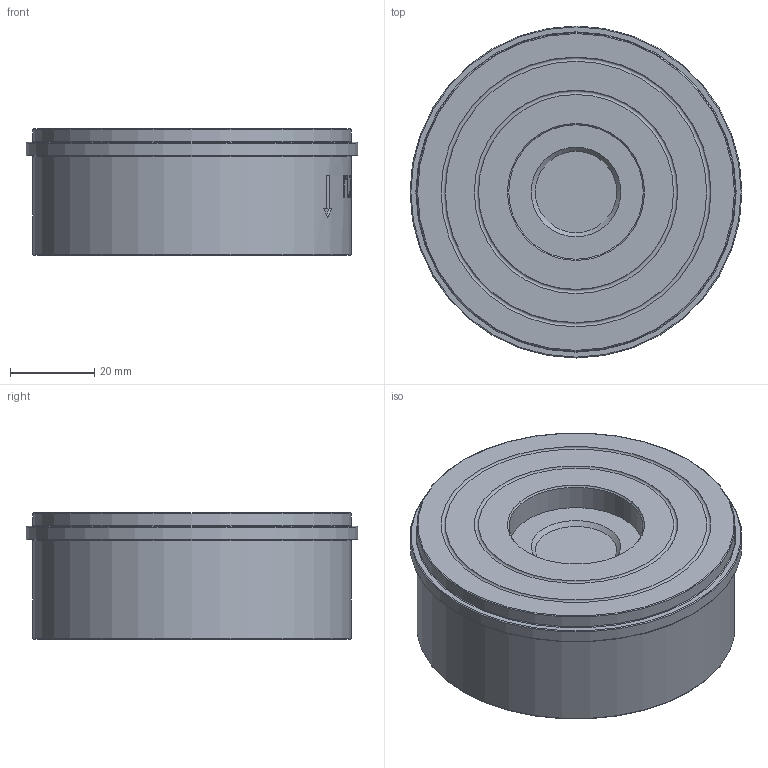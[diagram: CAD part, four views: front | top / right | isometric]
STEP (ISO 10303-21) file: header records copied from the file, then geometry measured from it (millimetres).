
FILE_DESCRIPTION(('STEP AP214'), '1');
FILE_NAME('VCS3232-Fb 孰囡囗 钺疣蝽 DN.ru 捏32 畜40', '', ('UNSPECIFIED'), ('UNSPECIFIED'), 'C3D Converter', 'C3D Toolkit', '');
FILE_SCHEMA(('AUTOMOTIVE_DESIGN { 1 0 10303 214 3 1 1}'));
Length unit declared in the file: millimetre
Products named in the file (1): VCS3232-Fb
Bounding box: 79 x 79 x 30 mm (x, y, z)
Volume: 56804.1 mm3; surface area: 34839.2 mm2
Topology: 2 solids, 2 shells, 135 faces, 327 edges, 215 vertices
Faces by surface type: plane 66, cylinder 30, extrusion 27, torus 10, bspline 1, cone 1
Full cylindrical faces by diameter (mm): 10.667 x1, 10.867 x1, 32 x1, 38.4 x1, 44.8 x1, 55.18 x1, 64 x1, 67.8 x1, 67.98 x1, 68 x1, 75.8 x2, 79 x1
Entity records: 8628 total; most frequent: CARTESIAN_POINT 4829, ORIENTED_EDGE 604, DIRECTION 576, EDGE_CURVE 302, VERTEX_POINT 215, AXIS2_PLACEMENT_3D 213, EDGE_LOOP 189, VECTOR 150
